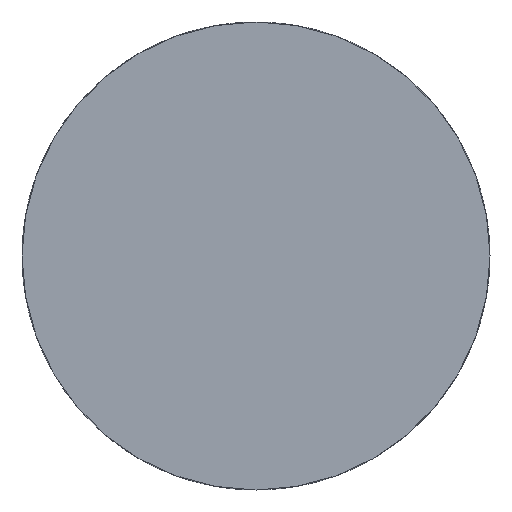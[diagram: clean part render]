
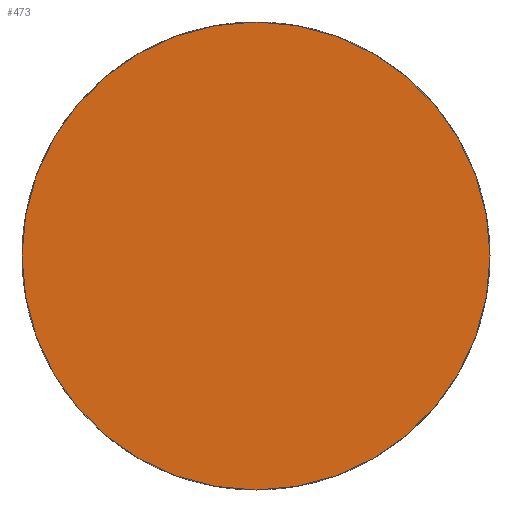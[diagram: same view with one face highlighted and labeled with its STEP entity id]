
A CAD part, left-side view. The second image highlights one B-rep face of the part: STEP entity #473.
In plain terms, the highlighted planar face has unit normal (-1, 0, 0).
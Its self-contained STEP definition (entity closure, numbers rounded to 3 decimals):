
#473 = ADVANCED_FACE( '', ( #1067 ), #1068, .F. );
#1067 = FACE_OUTER_BOUND( '', #1780, .T. );
#1068 = PLANE( '', #1781 );
#1780 = EDGE_LOOP( '', ( #3298 ) );
#1781 = AXIS2_PLACEMENT_3D( '', #3299, #3300, #3301 );
#3298 = ORIENTED_EDGE( '', *, *, #5139, .F. );
#3299 = CARTESIAN_POINT( '', ( 0., 0., 0. ) );
#3300 = DIRECTION( '', ( 1., 0., 0. ) );
#3301 = DIRECTION( '', ( 0., 0., -1. ) );
#5139 = EDGE_CURVE( '', #6487, #6487, #6488, .T. );
#6487 = VERTEX_POINT( '', #8181 );
#6488 = CIRCLE( '', #8182, 13.465 );
#8181 = CARTESIAN_POINT( '', ( 0., 0., -13.465 ) );
#8182 = AXIS2_PLACEMENT_3D( '', #9633, #9634, #9635 );
#9633 = CARTESIAN_POINT( '', ( 0., 0., 0. ) );
#9634 = DIRECTION( '', ( 1., 0., 0. ) );
#9635 = DIRECTION( '', ( 0., 0., -1. ) );
